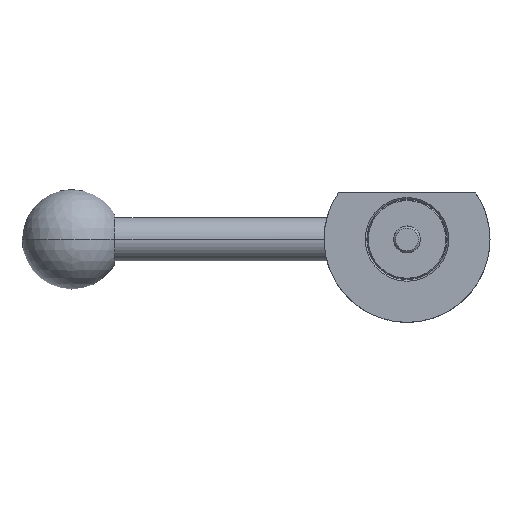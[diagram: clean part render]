
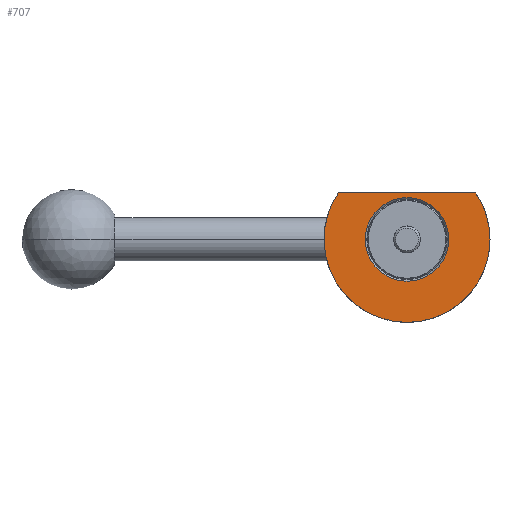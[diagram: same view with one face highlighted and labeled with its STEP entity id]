
A CAD part, front view. The second image highlights one B-rep face of the part: STEP entity #707.
In plain terms, the highlighted planar face has unit normal (0, -1, 0).
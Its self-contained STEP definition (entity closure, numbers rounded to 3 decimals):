
#14 = EDGE_CURVE ( 'NONE', #1576, #314, #1828, .T. ) ;
#48 = DIRECTION ( 'NONE',  ( 1., 0., 0. ) ) ;
#112 = ORIENTED_EDGE ( 'NONE', *, *, #861, .F. ) ;
#121 = AXIS2_PLACEMENT_3D ( 'NONE', #405, #736, #48 ) ;
#125 = ORIENTED_EDGE ( 'NONE', *, *, #329, .T. ) ;
#167 = FACE_BOUND ( 'NONE', #1101, .T. ) ;
#201 = CARTESIAN_POINT ( 'NONE',  ( 20.712, -12., 14. ) ) ;
#205 = VERTEX_POINT ( 'NONE', #1285 ) ;
#218 = DIRECTION ( 'NONE',  ( -1., 0., 0. ) ) ;
#241 = CIRCLE ( 'NONE', #674, 12.6 ) ;
#314 = VERTEX_POINT ( 'NONE', #1013 ) ;
#329 = EDGE_CURVE ( 'NONE', #1062, #1402, #1342, .T. ) ;
#369 = DIRECTION ( 'NONE',  ( 0., 1., 0. ) ) ;
#405 = CARTESIAN_POINT ( 'NONE',  ( -12.6, -12., 0. ) ) ;
#413 = FACE_OUTER_BOUND ( 'NONE', #1166, .T. ) ;
#478 = ORIENTED_EDGE ( 'NONE', *, *, #1590, .F. ) ;
#526 = DIRECTION ( 'NONE',  ( -1., 0., 0. ) ) ;
#532 = ORIENTED_EDGE ( 'NONE', *, *, #1634, .T. ) ;
#536 = CARTESIAN_POINT ( 'NONE',  ( 25., -12., 0. ) ) ;
#546 = EDGE_CURVE ( 'NONE', #1402, #1062, #241, .T. ) ;
#550 = CARTESIAN_POINT ( 'NONE',  ( -12.6, -12., 0. ) ) ;
#579 = PLANE ( 'NONE',  #121 ) ;
#598 = CIRCLE ( 'NONE', #1923, 25. ) ;
#605 = VECTOR ( 'NONE', #1077, 1000. ) ;
#674 = AXIS2_PLACEMENT_3D ( 'NONE', #1649, #877, #218 ) ;
#701 = DIRECTION ( 'NONE',  ( -1., 0., 0. ) ) ;
#703 = DIRECTION ( 'NONE',  ( 0., 1., 0. ) ) ;
#707 = ADVANCED_FACE ( 'NONE', ( #167, #413 ), #579, .T. ) ;
#736 = DIRECTION ( 'NONE',  ( 0., -1., 0. ) ) ;
#792 = ORIENTED_EDGE ( 'NONE', *, *, #14, .F. ) ;
#812 = VERTEX_POINT ( 'NONE', #201 ) ;
#858 = AXIS2_PLACEMENT_3D ( 'NONE', #1072, #1853, #1689 ) ;
#861 = EDGE_CURVE ( 'NONE', #314, #205, #598, .T. ) ;
#875 = CARTESIAN_POINT ( 'NONE',  ( 0., -12., 0. ) ) ;
#877 = DIRECTION ( 'NONE',  ( 0., 1., 0. ) ) ;
#894 = LINE ( 'NONE', #1088, #605 ) ;
#983 = AXIS2_PLACEMENT_3D ( 'NONE', #1353, #1493, #526 ) ;
#1013 = CARTESIAN_POINT ( 'NONE',  ( -25., -12., 0. ) ) ;
#1044 = CARTESIAN_POINT ( 'NONE',  ( 0., -12., 0. ) ) ;
#1062 = VERTEX_POINT ( 'NONE', #550 ) ;
#1072 = CARTESIAN_POINT ( 'NONE',  ( 0., -12., 0. ) ) ;
#1077 = DIRECTION ( 'NONE',  ( -1., 0., 0. ) ) ;
#1088 = CARTESIAN_POINT ( 'NONE',  ( -12.6, -12., 14. ) ) ;
#1089 = ORIENTED_EDGE ( 'NONE', *, *, #546, .T. ) ;
#1101 = EDGE_LOOP ( 'NONE', ( #1089, #125 ) ) ;
#1134 = AXIS2_PLACEMENT_3D ( 'NONE', #1044, #703, #1662 ) ;
#1166 = EDGE_LOOP ( 'NONE', ( #478, #532, #112, #792 ) ) ;
#1285 = CARTESIAN_POINT ( 'NONE',  ( -20.712, -12., 14. ) ) ;
#1342 = CIRCLE ( 'NONE', #983, 12.6 ) ;
#1353 = CARTESIAN_POINT ( 'NONE',  ( 0., -12., 0. ) ) ;
#1402 = VERTEX_POINT ( 'NONE', #1913 ) ;
#1493 = DIRECTION ( 'NONE',  ( 0., 1., 0. ) ) ;
#1576 = VERTEX_POINT ( 'NONE', #536 ) ;
#1590 = EDGE_CURVE ( 'NONE', #812, #1576, #1992, .T. ) ;
#1634 = EDGE_CURVE ( 'NONE', #812, #205, #894, .T. ) ;
#1649 = CARTESIAN_POINT ( 'NONE',  ( 0., -12., 0. ) ) ;
#1662 = DIRECTION ( 'NONE',  ( -1., 0., 0. ) ) ;
#1689 = DIRECTION ( 'NONE',  ( -1., 0., 0. ) ) ;
#1828 = CIRCLE ( 'NONE', #858, 25. ) ;
#1853 = DIRECTION ( 'NONE',  ( 0., 1., 0. ) ) ;
#1913 = CARTESIAN_POINT ( 'NONE',  ( 12.6, -12., 0. ) ) ;
#1923 = AXIS2_PLACEMENT_3D ( 'NONE', #875, #369, #701 ) ;
#1992 = CIRCLE ( 'NONE', #1134, 25. ) ;
